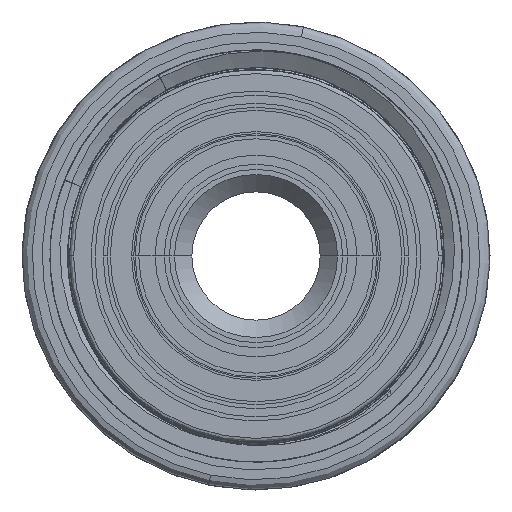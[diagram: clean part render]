
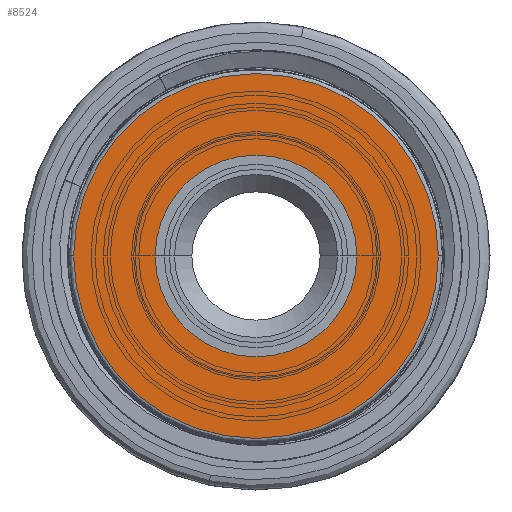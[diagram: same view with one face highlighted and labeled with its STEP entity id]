
A CAD part, front view. The second image highlights one B-rep face of the part: STEP entity #8524.
In plain terms, the highlighted planar face has unit normal (0, -1, 0) as drawn and (0, 1, 0) by its records, which use the part's own axes.
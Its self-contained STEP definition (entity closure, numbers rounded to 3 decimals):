
#7321=CARTESIAN_POINT('',(0.,2.,0.));
#7322=DIRECTION('',(0.,-1.,0.));
#7323=DIRECTION('',(1.,0.,0.));
#7324=AXIS2_PLACEMENT_3D('',#7321,#7322,#7323);
#7326=CARTESIAN_POINT('',(0.,2.,0.));
#7327=DIRECTION('',(0.,-1.,0.));
#7328=DIRECTION('',(-1.,0.,0.));
#7329=AXIS2_PLACEMENT_3D('',#7326,#7327,#7328);
#7331=CARTESIAN_POINT('',(0.,2.,0.));
#7332=DIRECTION('',(0.,1.,0.));
#7333=DIRECTION('',(-1.,0.,0.));
#7334=AXIS2_PLACEMENT_3D('',#7331,#7332,#7333);
#7336=CARTESIAN_POINT('',(0.,2.,0.));
#7337=DIRECTION('',(0.,1.,0.));
#7338=DIRECTION('',(1.,0.,0.));
#7339=AXIS2_PLACEMENT_3D('',#7336,#7337,#7338);
#8375=CARTESIAN_POINT('',(4.95,2.,0.));
#8376=CARTESIAN_POINT('',(-4.95,2.,0.));
#8377=VERTEX_POINT('',#8375);
#8378=VERTEX_POINT('',#8376);
#8391=CARTESIAN_POINT('',(-8.95,2.,0.));
#8392=CARTESIAN_POINT('',(8.95,2.,0.));
#8393=VERTEX_POINT('',#8391);
#8394=VERTEX_POINT('',#8392);
#8509=CARTESIAN_POINT('',(0.,2.,0.));
#8510=DIRECTION('',(0.,1.,0.));
#8511=DIRECTION('',(1.,0.,0.));
#8512=AXIS2_PLACEMENT_3D('',#8509,#8510,#8511);
#8513=PLANE('',#8512);
#8515=ORIENTED_EDGE('',*,*,#8514,.F.);
#8517=ORIENTED_EDGE('',*,*,#8516,.F.);
#8518=EDGE_LOOP('',(#8515,#8517));
#8519=FACE_OUTER_BOUND('',#8518,.F.);
#8520=ORIENTED_EDGE('',*,*,#8489,.F.);
#8521=ORIENTED_EDGE('',*,*,#8503,.F.);
#8522=EDGE_LOOP('',(#8520,#8521));
#8523=FACE_BOUND('',#8522,.F.);
#8524=ADVANCED_FACE('',(#8519,#8523),#8513,.T.);
#7325=CIRCLE('',#7324,4.95);
#7330=CIRCLE('',#7329,4.95);
#7335=CIRCLE('',#7334,8.95);
#7340=CIRCLE('',#7339,8.95);
#8489=EDGE_CURVE('',#8377,#8378,#7325,.T.);
#8503=EDGE_CURVE('',#8378,#8377,#7330,.T.);
#8514=EDGE_CURVE('',#8393,#8394,#7335,.T.);
#8516=EDGE_CURVE('',#8394,#8393,#7340,.T.);
